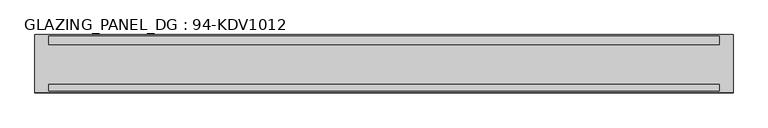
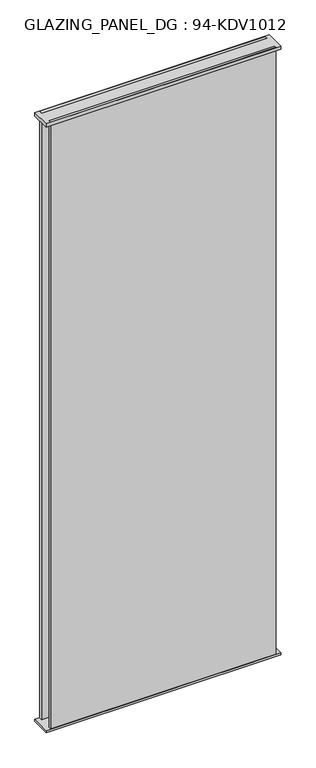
"""IFC4 building model written with IfcOpenShell, lengths in millimetres: plate geometry, GLAZING_PANEL_DG : 94-KDV1012."""

from ifc_helpers import new_model, si_unit, frame, origin, origin_with_axes, place, context, project, spatial, polyline, outline, extrude, source, transform, mapped, element, save


def glazing_panel_dg_94_kdv1012_3f67e66a(model_context):
    return source(origin(), model_context, "Body", "SweptSolid", [
        extrude(outline(polyline([(479.8, -39.5), (-479.8, -39.5), (-479.8, -29.5), (479.8, -29.5), (479.8, -39.5)])), origin_with_axes(), (0.0, 0.0, 1.0), 2739.0),
        extrude(outline(polyline([(479.8, 27.5), (-479.8, 27.5), (-479.8, 39.5), (479.8, 39.5), (479.8, 27.5)])), origin_with_axes(), (0.0, 0.0, 1.0), 2739.0),
        extrude(outline(polyline([(499.8, 41.5), (499.8, -41.5), (-499.8, -41.5), (-499.8, 41.5), (499.8, 41.5)])), frame((0.0, 0.0, 2724.0), z_axis=(0.0, 0.0, 1.0), x_axis=(1.0, 0.0, 0.0)), (0.0, 0.0, 1.0), 15.0),
        extrude(outline(polyline([(499.8, -41.5), (-499.8, -41.5), (-499.8, 41.5), (499.8, 41.5), (499.8, -41.5)])), origin_with_axes(), (0.0, 0.0, 1.0), 9.0),
    ])


if __name__ == "__main__":
    model = new_model("IFC4")
    model_context = context("Model", 3, world=origin())
    ifc_project = project(units=[si_unit("LENGTHUNIT", "METRE", prefix="MILLI")], contexts=[model_context])
    site = spatial("IfcSite", under=ifc_project)
    building = spatial("IfcBuilding", under=site)
    placement = place(None, origin())
    glazing_panel_dg_94_kdv1012_shape = glazing_panel_dg_94_kdv1012_3f67e66a(model_context)
    element("IfcPlate", 1, ObjectType="GLAZING_PANEL_DG : 94-KDV1012", at=placement, inside=building, context=model_context, shape_type="MappedRepresentation", body=[
        mapped(glazing_panel_dg_94_kdv1012_shape, transform((0.0, 0.0, 0.0), x_axis=(1.0, 0.0, 0.0), y_axis=(0.0, 1.0, 0.0), z_axis=(0.0, 0.0, 1.0))),
    ])
    save(model, "model.ifc")
